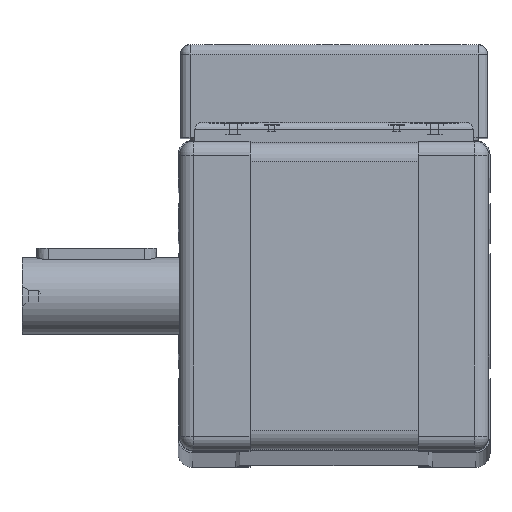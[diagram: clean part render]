
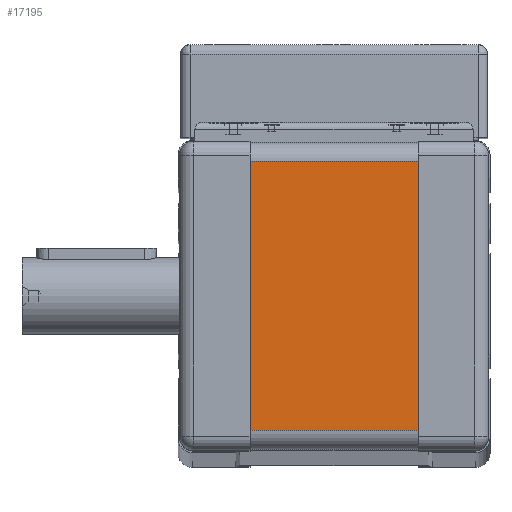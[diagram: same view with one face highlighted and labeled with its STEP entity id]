
A CAD part, top view. The second image highlights one B-rep face of the part: STEP entity #17195.
In plain terms, the highlighted planar face has unit normal (0, 0, 1) as drawn and (1, 0, 0) by its records, which use the part's own axes.
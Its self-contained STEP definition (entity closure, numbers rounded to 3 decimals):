
#411=LINE('',#22861,#1637);
#417=LINE('',#22877,#1643);
#434=LINE('',#22945,#1660);
#435=LINE('',#22947,#1661);
#1637=VECTOR('',#19267,1000.);
#1643=VECTOR('',#19281,1000.);
#1660=VECTOR('',#19374,1000.);
#1661=VECTOR('',#19377,1000.);
#3010=ORIENTED_EDGE('',*,*,#6140,.F.);
#3011=ORIENTED_EDGE('',*,*,#6174,.F.);
#3012=ORIENTED_EDGE('',*,*,#6132,.T.);
#3013=ORIENTED_EDGE('',*,*,#6175,.T.);
#6132=EDGE_CURVE('',#7739,#7738,#411,.T.);
#6140=EDGE_CURVE('',#7744,#7745,#417,.T.);
#6174=EDGE_CURVE('',#7739,#7744,#434,.T.);
#6175=EDGE_CURVE('',#7738,#7745,#435,.T.);
#7738=VERTEX_POINT('',#22860);
#7739=VERTEX_POINT('',#22862);
#7744=VERTEX_POINT('',#22876);
#7745=VERTEX_POINT('',#22878);
#9239=EDGE_LOOP('',(#3010,#3011,#3012,#3013));
#10285=FACE_BOUND('',#9239,.T.);
#11315=PLANE('',#18030);
#17195=ADVANCED_FACE('',(#10285),#11315,.T.);
#18030=AXIS2_PLACEMENT_3D('',#22946,#19375,#19376);
#19267=DIRECTION('',(0.,-1.,0.));
#19281=DIRECTION('',(0.,-1.,0.));
#19374=DIRECTION('',(0.,0.,-1.));
#19375=DIRECTION('',(1.,0.,0.));
#19376=DIRECTION('',(0.,0.,-1.));
#19377=DIRECTION('',(0.,0.,-1.));
#22860=CARTESIAN_POINT('',(34.75,-28.,17.5));
#22861=CARTESIAN_POINT('',(34.75,28.,17.5));
#22862=CARTESIAN_POINT('',(34.75,28.,17.5));
#22876=CARTESIAN_POINT('',(34.75,28.,-17.5));
#22877=CARTESIAN_POINT('',(34.75,28.,-17.5));
#22878=CARTESIAN_POINT('',(34.75,-28.,-17.5));
#22945=CARTESIAN_POINT('',(34.75,28.,17.5));
#22946=CARTESIAN_POINT('',(34.75,28.,17.5));
#22947=CARTESIAN_POINT('',(34.75,-28.,17.5));
